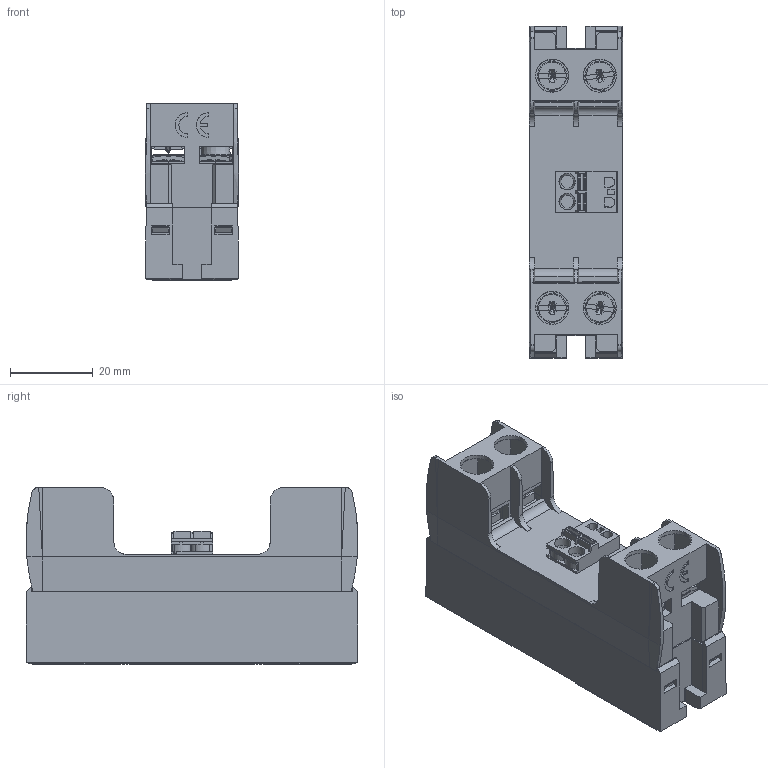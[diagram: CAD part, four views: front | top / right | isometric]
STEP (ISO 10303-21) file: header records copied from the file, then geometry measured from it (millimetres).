
FILE_DESCRIPTION(/* description */ (''),/* implementation_level */ '2;1');
FILE_NAME(/* name */ 'C:\Vault_local\Designs\Stock\3D pour clients\2D3D 600\2D3D 661 A.stp',/* time_stamp */ '2021-03-12T09:22:02+01:00',/* author */ ('fbros'),/* organization */ (''),/* preprocessor_version */ 'ST-DEVELOPER v17',/* originating_system */ 'Autodesk Inventor 2018',/* authorisation */ '');
FILE_SCHEMA (('AUTOMOTIVE_DESIGN { 1 0 10303 214 3 1 1 }'));
Products named in the file (1): SIBxxx
Bounding box: 22.47 x 80 x 42.6 mm (x, y, z)
Volume: 50317.4 mm3; surface area: 17584.2 mm2
Topology: 3 solids, 7 shells, 1435 faces, 3896 edges, 2510 vertices
Faces by surface type: plane 857, cylinder 257, bspline 203, torus 64, cone 54
Full cylindrical faces by diameter (mm): 2.8 x4, 2.85 x6, 3 x4, 4 x2
Entity records: 61010 total; most frequent: CARTESIAN_POINT 23886, ORIENTED_EDGE 7792, DIRECTION 6852, EDGE_CURVE 3896, LINE 2700, VECTOR 2700, VERTEX_POINT 2510, AXIS2_PLACEMENT_3D 2076
